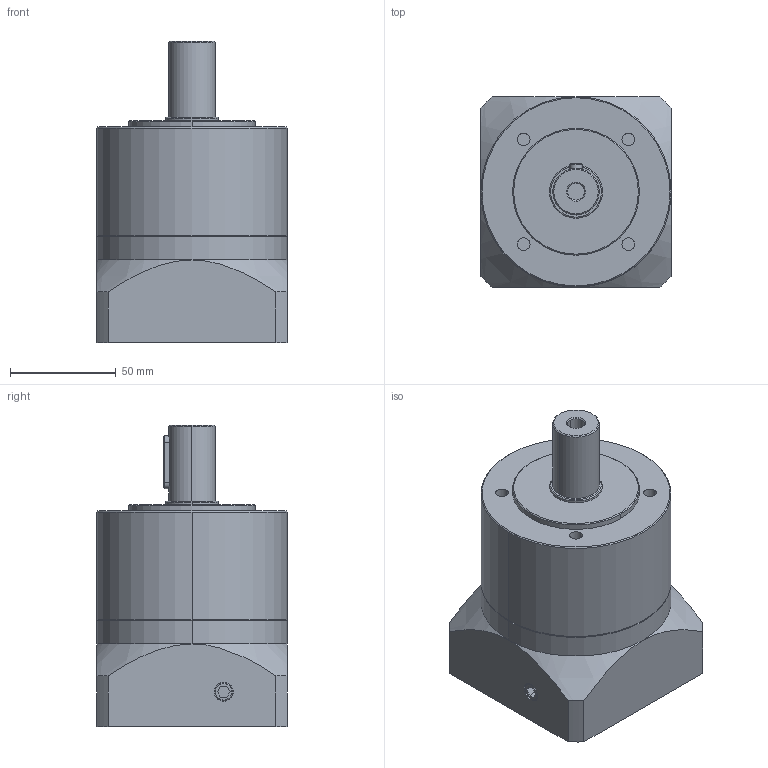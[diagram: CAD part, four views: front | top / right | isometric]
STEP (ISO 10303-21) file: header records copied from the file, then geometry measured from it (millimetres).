
FILE_DESCRIPTION((''),'2;1');
FILE_NAME('01-0_ASM','2017-04-22T',('Administrator'),(''),'PRO/ENGINEER BY PARAMETRIC TECHNOLOGY CORPORATION, 2010280','PRO/ENGINEER BY PARAMETRIC TECHNOLOGY CORPORATION, 2010280','');
FILE_SCHEMA(('CONFIG_CONTROL_DESIGN'));
Length unit declared in the file: millimetre
Products named in the file (10): 01-1; 01-2; 01-3; 01-04; 01-06; 01-07; 01-08_ASM; 01-05; 01-08; 01-0_ASM
Assembly tree (13 placements, depth 3):
  01-0_ASM
    01-1
    01-2
    01-3
    01-04  x2
    01-08_ASM
      01-06
      01-07
    01-05
    01-08  x4
Bounding box: 90 x 90 x 142.5 mm (x, y, z)
Volume: 656556.3 mm3; surface area: 87556.4 mm2
Topology: 12 solids, 12 shells, 246 faces, 536 edges, 344 vertices
Faces by surface type: plane 121, cylinder 84, cone 39, torus 2
Entity records: 5802 total; most frequent: CARTESIAN_POINT 1130, DIRECTION 1031, ORIENTED_EDGE 848, EDGE_CURVE 424, AXIS2_PLACEMENT_3D 411, VERTEX_POINT 272, EDGE_LOOP 228, VECTOR 209
